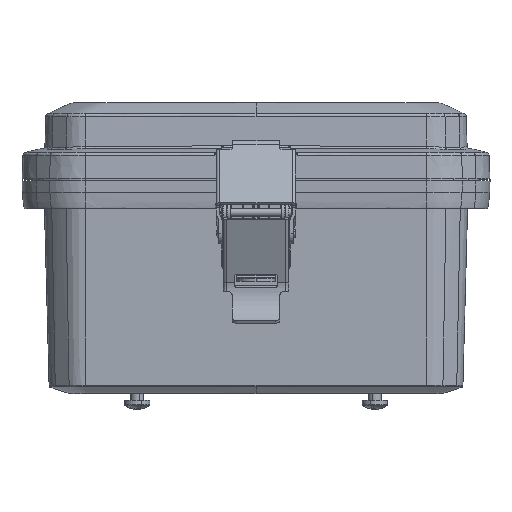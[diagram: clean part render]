
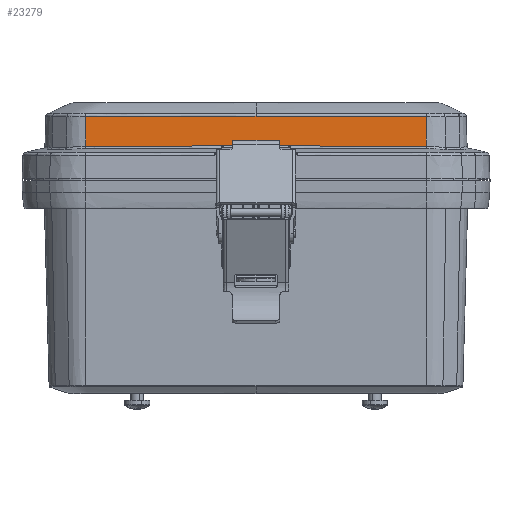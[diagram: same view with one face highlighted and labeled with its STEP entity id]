
A CAD part, top view. The second image highlights one B-rep face of the part: STEP entity #23279.
In plain terms, the highlighted planar face has unit normal (0, 0.035, 0.999).
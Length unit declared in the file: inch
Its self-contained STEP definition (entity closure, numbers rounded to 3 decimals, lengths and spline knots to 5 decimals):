
#2266 = B_SPLINE_CURVE_WITH_KNOTS ( 'NONE', 3,
 ( #83094, #96953, #109973, #98635, #121276, #96110, #5096, #57961, #58775, #2540, #82255, #43275, #161873, #149703, #71813, #124656 ),
 .UNSPECIFIED., .F., .F.,
 ( 4, 2, 2, 2, 2, 2, 2, 4 ),
 ( 0., 0.03186, 0.04779, 0.05575, 0.05973, 0.06073, 0.06173, 0.06372 ),
 .UNSPECIFIED. ) ;
#2540 = CARTESIAN_POINT ( 'NONE',  ( 2.36483, 0.48552, 2.60805 ) ) ;
#4632 = ORIENTED_EDGE ( 'NONE', *, *, #30963, .T. ) ;
#5031 = CARTESIAN_POINT ( 'NONE',  ( -2.29948, 0.48538, 2.60805 ) ) ;
#5096 = CARTESIAN_POINT ( 'NONE',  ( 2.09046, 0.48522, 2.60806 ) ) ;
#5346 = ORIENTED_EDGE ( 'NONE', *, *, #125947, .T. ) ;
#5702 = CARTESIAN_POINT ( 'NONE',  ( 2.50844, 0.91908, 2.59291 ) ) ;
#7281 = VERTEX_POINT ( 'NONE', #37088 ) ;
#7884 = CARTESIAN_POINT ( 'NONE',  ( 2.50844, 0., 2.625 ) ) ;
#9572 = DIRECTION ( 'NONE',  ( 0., -0.999, 0.035 ) ) ;
#11689 = VERTEX_POINT ( 'NONE', #5702 ) ;
#17282 = ORIENTED_EDGE ( 'NONE', *, *, #162648, .T. ) ;
#23279 = ADVANCED_FACE ( 'NONE', ( #62656 ), #115530, .T. ) ;
#23657 = CARTESIAN_POINT ( 'NONE',  ( -2.50844, 0., 2.625 ) ) ;
#27080 = ORIENTED_EDGE ( 'NONE', *, *, #130274, .T. ) ;
#29466 = VERTEX_POINT ( 'NONE', #123878 ) ;
#30223 = DIRECTION ( 'NONE',  ( 0., -0.999, 0.035 ) ) ;
#30963 = EDGE_CURVE ( 'NONE', #11689, #29466, #47676, .T. ) ;
#32267 = B_SPLINE_CURVE_WITH_KNOTS ( 'NONE', 3,
 ( #60422, #140078, #113284, #47429, #123752, #88139, #110729, #5031, #57894, #163495, #111573, #164337, #45740, #98566, #151352, #32728 ),
 .UNSPECIFIED., .F., .F.,
 ( 4, 2, 2, 2, 2, 2, 2, 4 ),
 ( 0., 0.00199, 0.00299, 0.00398, 0.00796, 0.01593, 0.03186, 0.06372 ),
 .UNSPECIFIED. ) ;
#32728 = CARTESIAN_POINT ( 'NONE',  ( 0., 0.4854, 2.60805 ) ) ;
#36845 = CARTESIAN_POINT ( 'NONE',  ( 1.66799, 0.91923, 2.5929 ) ) ;
#37088 = CARTESIAN_POINT ( 'NONE',  ( -2.50844, 0.91908, 2.59291 ) ) ;
#43275 = CARTESIAN_POINT ( 'NONE',  ( 2.40402, 0.48552, 2.60805 ) ) ;
#45740 = CARTESIAN_POINT ( 'NONE',  ( -1.46331, 0.48545, 2.60805 ) ) ;
#45780 = CARTESIAN_POINT ( 'NONE',  ( -2.50844, 0., 2.625 ) ) ;
#47429 = CARTESIAN_POINT ( 'NONE',  ( -2.41707, 0.48531, 2.60805 ) ) ;
#47676 = B_SPLINE_CURVE_WITH_KNOTS ( 'NONE', 3,
 ( #118283, #49855, #36845, #89673 ),
 .UNSPECIFIED., .F., .F.,
 ( 4, 4 ),
 ( 0., 1. ),
 .UNSPECIFIED. ) ;
#47748 = VERTEX_POINT ( 'NONE', #111711 ) ;
#49855 = CARTESIAN_POINT ( 'NONE',  ( 2.50414, 0.91919, 2.5929 ) ) ;
#57894 = CARTESIAN_POINT ( 'NONE',  ( -2.24722, 0.48531, 2.60805 ) ) ;
#57961 = CARTESIAN_POINT ( 'NONE',  ( 2.24724, 0.48531, 2.60805 ) ) ;
#58709 = CARTESIAN_POINT ( 'NONE',  ( -2.50414, 0.91919, 2.5929 ) ) ;
#58775 = CARTESIAN_POINT ( 'NONE',  ( 2.2995, 0.48538, 2.60805 ) ) ;
#59551 = CARTESIAN_POINT ( 'NONE',  ( -2.50844, 0.91908, 2.59291 ) ) ;
#60422 = CARTESIAN_POINT ( 'NONE',  ( -2.50844, 0.48144, 2.60819 ) ) ;
#62656 = FACE_OUTER_BOUND ( 'NONE', #107625, .T. ) ;
#64301 = ORIENTED_EDGE ( 'NONE', *, *, #92373, .F. ) ;
#71752 = CARTESIAN_POINT ( 'NONE',  ( 0., 0.9192, 2.5929 ) ) ;
#71813 = CARTESIAN_POINT ( 'NONE',  ( 2.48237, 0.48311, 2.60813 ) ) ;
#73188 = VERTEX_POINT ( 'NONE', #87692 ) ;
#76512 = DIRECTION ( 'NONE',  ( 0., 0.035, 0.999 ) ) ;
#82255 = CARTESIAN_POINT ( 'NONE',  ( 2.37789, 0.48561, 2.60804 ) ) ;
#82486 = VECTOR ( 'NONE', #30223, 39.37008 ) ;
#83094 = CARTESIAN_POINT ( 'NONE',  ( 0., 0.4854, 2.60805 ) ) ;
#83619 = ORIENTED_EDGE ( 'NONE', *, *, #118992, .T. ) ;
#84999 = AXIS2_PLACEMENT_3D ( 'NONE', #23657, #76512, #129350 ) ;
#85606 = LINE ( 'NONE', #45780, #82486 ) ;
#87692 = CARTESIAN_POINT ( 'NONE',  ( 0., 0.4854, 2.60805 ) ) ;
#88139 = CARTESIAN_POINT ( 'NONE',  ( -2.37787, 0.48561, 2.60804 ) ) ;
#89673 = CARTESIAN_POINT ( 'NONE',  ( 0., 0.9192, 2.5929 ) ) ;
#92373 = EDGE_CURVE ( 'NONE', #11689, #47748, #152497, .T. ) ;
#94637 = B_SPLINE_CURVE_WITH_KNOTS ( 'NONE', 3,
 ( #71752, #124593, #58709, #59551 ),
 .UNSPECIFIED., .F., .F.,
 ( 4, 4 ),
 ( 0., 1. ),
 .UNSPECIFIED. ) ;
#96110 = CARTESIAN_POINT ( 'NONE',  ( 1.98593, 0.4853, 2.60805 ) ) ;
#96953 = CARTESIAN_POINT ( 'NONE',  ( 0.41809, 0.48541, 2.60805 ) ) ;
#98566 = CARTESIAN_POINT ( 'NONE',  ( -0.83618, 0.48532, 2.60805 ) ) ;
#98635 = CARTESIAN_POINT ( 'NONE',  ( 1.46332, 0.48545, 2.60805 ) ) ;
#107625 = EDGE_LOOP ( 'NONE', ( #64301, #4632, #83619, #17282, #27080, #5346 ) ) ;
#109973 = CARTESIAN_POINT ( 'NONE',  ( 0.83618, 0.48532, 2.60805 ) ) ;
#110729 = CARTESIAN_POINT ( 'NONE',  ( -2.36481, 0.48552, 2.60805 ) ) ;
#111573 = CARTESIAN_POINT ( 'NONE',  ( -1.98592, 0.4853, 2.60805 ) ) ;
#111711 = CARTESIAN_POINT ( 'NONE',  ( 2.50844, 0.48144, 2.60819 ) ) ;
#113284 = CARTESIAN_POINT ( 'NONE',  ( -2.45625, 0.48433, 2.60809 ) ) ;
#115530 = PLANE ( 'NONE',  #84999 ) ;
#118283 = CARTESIAN_POINT ( 'NONE',  ( 2.50844, 0.91908, 2.59291 ) ) ;
#118992 = EDGE_CURVE ( 'NONE', #29466, #7281, #94637, .T. ) ;
#121276 = CARTESIAN_POINT ( 'NONE',  ( 1.67236, 0.48552, 2.60805 ) ) ;
#123752 = CARTESIAN_POINT ( 'NONE',  ( -2.404, 0.48552, 2.60805 ) ) ;
#123878 = CARTESIAN_POINT ( 'NONE',  ( 0., 0.9192, 2.5929 ) ) ;
#124593 = CARTESIAN_POINT ( 'NONE',  ( -1.66799, 0.91923, 2.5929 ) ) ;
#124656 = CARTESIAN_POINT ( 'NONE',  ( 2.50844, 0.48144, 2.60819 ) ) ;
#125947 = EDGE_CURVE ( 'NONE', #73188, #47748, #2266, .T. ) ;
#127173 = CARTESIAN_POINT ( 'NONE',  ( -2.50844, 0.48144, 2.60819 ) ) ;
#129350 = DIRECTION ( 'NONE',  ( 0., -0.999, 0.035 ) ) ;
#130274 = EDGE_CURVE ( 'NONE', #142327, #73188, #32267, .T. ) ;
#140078 = CARTESIAN_POINT ( 'NONE',  ( -2.48236, 0.48311, 2.60813 ) ) ;
#142327 = VERTEX_POINT ( 'NONE', #127173 ) ;
#147975 = VECTOR ( 'NONE', #9572, 39.37008 ) ;
#149703 = CARTESIAN_POINT ( 'NONE',  ( 2.45626, 0.48433, 2.60809 ) ) ;
#151352 = CARTESIAN_POINT ( 'NONE',  ( -0.41809, 0.48541, 2.60805 ) ) ;
#152497 = LINE ( 'NONE', #7884, #147975 ) ;
#161873 = CARTESIAN_POINT ( 'NONE',  ( 2.41708, 0.48531, 2.60805 ) ) ;
#162648 = EDGE_CURVE ( 'NONE', #7281, #142327, #85606, .T. ) ;
#163495 = CARTESIAN_POINT ( 'NONE',  ( -2.09044, 0.48522, 2.60806 ) ) ;
#164337 = CARTESIAN_POINT ( 'NONE',  ( -1.67235, 0.48552, 2.60805 ) ) ;
